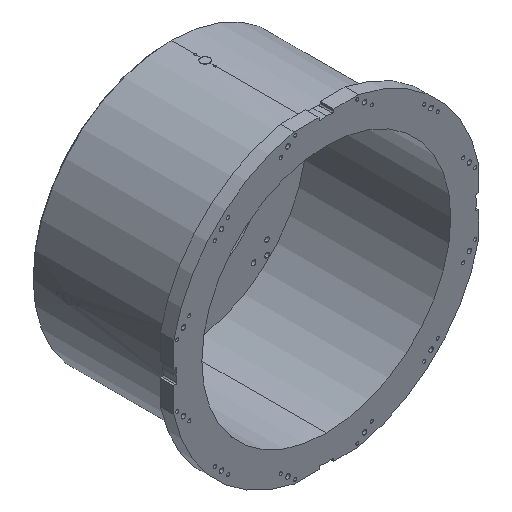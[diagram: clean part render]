
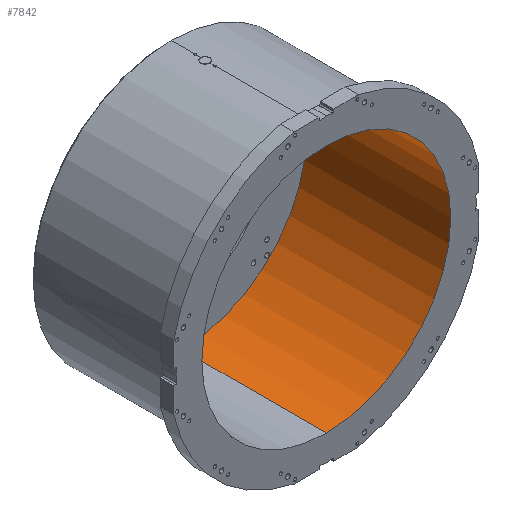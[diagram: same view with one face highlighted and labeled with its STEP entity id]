
A CAD part, isometric view. The second image highlights one B-rep face of the part: STEP entity #7842.
In plain terms, the highlighted cylindrical face has radius 555 mm (diameter 1110 mm), a partial arc.
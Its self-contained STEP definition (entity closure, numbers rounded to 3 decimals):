
#36 = CARTESIAN_POINT ( 'NONE',  ( 0., 644., 555. ) ) ;
#268 = CIRCLE ( 'NONE', #958, 555. ) ;
#659 = CARTESIAN_POINT ( 'NONE',  ( 0., 0., -555. ) ) ;
#958 = AXIS2_PLACEMENT_3D ( 'NONE', #3156, #10757, #4357 ) ;
#1277 = VERTEX_POINT ( 'NONE', #36 ) ;
#1461 = CARTESIAN_POINT ( 'NONE',  ( 0., 0., 555. ) ) ;
#2508 = AXIS2_PLACEMENT_3D ( 'NONE', #12384, #5656, #6862 ) ;
#2816 = DIRECTION ( 'NONE',  ( 0., 0., -1. ) ) ;
#2983 = CIRCLE ( 'NONE', #10923, 555. ) ;
#3156 = CARTESIAN_POINT ( 'NONE',  ( 0., 0., 0. ) ) ;
#3317 = EDGE_CURVE ( 'NONE', #13519, #12010, #8016, .T. ) ;
#3567 = LINE ( 'NONE', #1461, #6830 ) ;
#3771 = DIRECTION ( 'NONE',  ( 0., -1., 0. ) ) ;
#3956 = ORIENTED_EDGE ( 'NONE', *, *, #13967, .T. ) ;
#4357 = DIRECTION ( 'NONE',  ( 0., 0., -1. ) ) ;
#4365 = VECTOR ( 'NONE', #3771, 1000. ) ;
#4797 = CARTESIAN_POINT ( 'NONE',  ( 0., 644., -555. ) ) ;
#4837 = CARTESIAN_POINT ( 'NONE',  ( 0., 0., -555. ) ) ;
#5150 = EDGE_LOOP ( 'NONE', ( #13355, #3956, #7368, #5325 ) ) ;
#5325 = ORIENTED_EDGE ( 'NONE', *, *, #12713, .T. ) ;
#5656 = DIRECTION ( 'NONE',  ( 0., -1., 0. ) ) ;
#6250 = CARTESIAN_POINT ( 'NONE',  ( 0., 0., 555. ) ) ;
#6830 = VECTOR ( 'NONE', #7880, 1000. ) ;
#6862 = DIRECTION ( 'NONE',  ( 0., 0., -1. ) ) ;
#6932 = FACE_OUTER_BOUND ( 'NONE', #5150, .T. ) ;
#7368 = ORIENTED_EDGE ( 'NONE', *, *, #3317, .T. ) ;
#7501 = VERTEX_POINT ( 'NONE', #6250 ) ;
#7842 = ADVANCED_FACE ( 'NONE', ( #6932 ), #7917, .F. ) ;
#7880 = DIRECTION ( 'NONE',  ( 0., -1., 0. ) ) ;
#7917 = CYLINDRICAL_SURFACE ( 'NONE', #2508, 555. ) ;
#8016 = LINE ( 'NONE', #4837, #4365 ) ;
#8076 = CARTESIAN_POINT ( 'NONE',  ( 0., 644., 0. ) ) ;
#8199 = EDGE_CURVE ( 'NONE', #1277, #7501, #3567, .T. ) ;
#10757 = DIRECTION ( 'NONE',  ( 0., -1., 0. ) ) ;
#10923 = AXIS2_PLACEMENT_3D ( 'NONE', #8076, #12548, #2816 ) ;
#12010 = VERTEX_POINT ( 'NONE', #659 ) ;
#12384 = CARTESIAN_POINT ( 'NONE',  ( 0., 0., 0. ) ) ;
#12548 = DIRECTION ( 'NONE',  ( 0., 1., 0. ) ) ;
#12713 = EDGE_CURVE ( 'NONE', #12010, #7501, #268, .T. ) ;
#13355 = ORIENTED_EDGE ( 'NONE', *, *, #8199, .F. ) ;
#13519 = VERTEX_POINT ( 'NONE', #4797 ) ;
#13967 = EDGE_CURVE ( 'NONE', #1277, #13519, #2983, .T. ) ;
